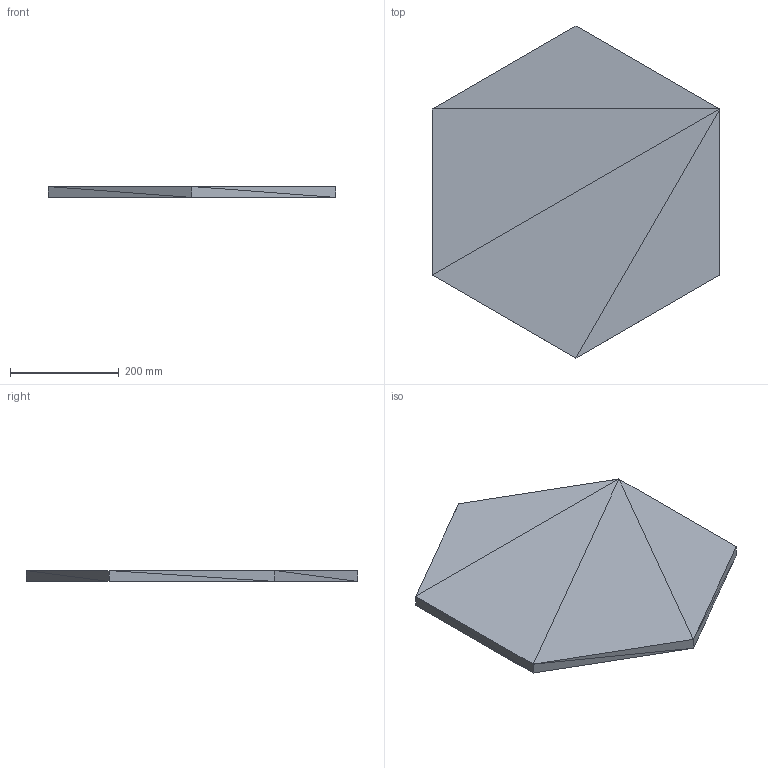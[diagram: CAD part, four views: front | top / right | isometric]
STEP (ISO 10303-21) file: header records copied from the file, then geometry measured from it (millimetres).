
FILE_DESCRIPTION(('ISINAC STEP AP214'),'2;1');
FILE_NAME('ISINAC_HEX.305_20mm_ADHESIVO','2026-05-03T10:49:19',('ISINAC'),('www.isinac.com'),'ISINAC BIM Generator 1.0','','');
FILE_SCHEMA(('AUTOMOTIVE_DESIGN'));
Length unit declared in the file: millimetre
Products named in the file (1): ISINAC_HEX.305_20mm_ADHESIVO
Bounding box: 528.28 x 610 x 20 mm (x, y, z)
Surface area: 519972 mm2 (no closed solid volume)
Topology: 0 solids, 20 shells, 20 faces, 60 edges, 60 vertices
Faces by surface type: plane 20
Entity records: 233 total; most frequent: CARTESIAN_POINT 80, DIRECTION 40, POLY_LOOP 20, FACE_OUTER_BOUND 20, AXIS2_PLACEMENT_3D 20, PLANE 20, FACE_SURFACE 20, CLOSED_SHELL 1
